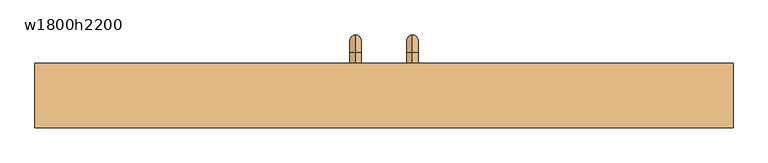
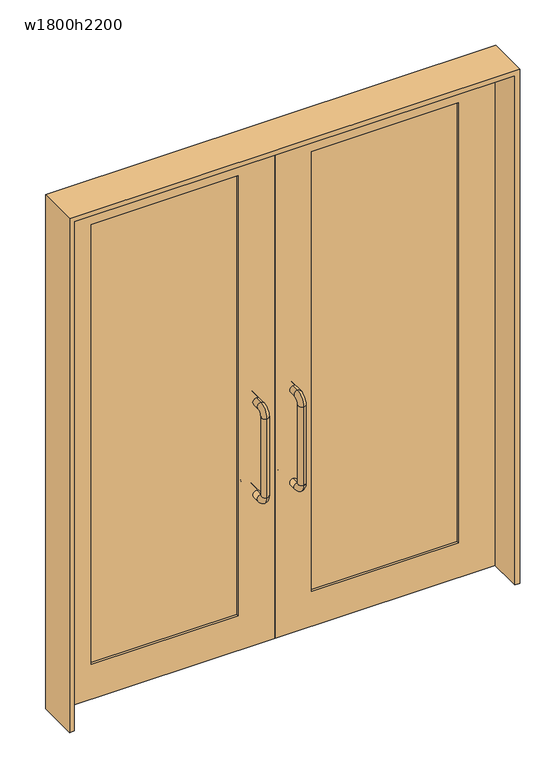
"""IFC4 building model written with IfcOpenShell, lengths in millimetres: door geometry, 両開き_ガラス四方框 : w1800h2200."""

from ifc_helpers import new_model, si_unit, point, frame, origin, place, context, project, spatial, polyline, circle_curve, ellipse_curve, trimmed, outline, extrude, source, transform, mapped, element, save
from ifc_brep_helpers import cylinder_surface, revolved_surface, advanced_brep


def w1800h2200_5ceaf187(model_context):
    return source(origin(), model_context, "Body", "SolidModel", [
        advanced_brep(
        [(75.0, 130.0, 680.0), (75.0, 115.0, 665.0), (75.0, 115.0, 635.0), (75.0, 160.0, 680.0), (75.0, 160.0, 1020.0), (75.0, 130.0, 1020.0), (75.0, 115.0, 1035.0), (75.0, 115.0, 1065.0), (75.0, 25.0, 1065.0), (75.0, 25.0, 1035.0), (75.0, 10.0, 1020.0), (75.0, -20.0, 1020.0), (75.0, -20.0, 680.0), (75.0, 10.0, 680.0), (75.0, 25.0, 665.0), (75.0, 25.0, 635.0)],
        [
            (0, 1, circle_curve(frame((75.0, 115.0, 680.0), z_axis=(-1.0, 0.0, 0.0), x_axis=(0.0, 0.0, -1.0)), 15.0)),
            (1, 2, circle_curve(frame((75.0, 115.0, 650.0), z_axis=(0.0, 1.0, 0.0), x_axis=(0.0, 0.0, 1.0)), 15.0)),
            (2, 3, circle_curve(frame((75.0, 115.0, 680.0), z_axis=(1.0, 0.0, 0.0), x_axis=(0.0, 0.0, -1.0)), 45.0)),
            (3, 0, circle_curve(frame((75.0, 145.0, 680.0), z_axis=(0.0, 0.0, -1.0), x_axis=(0.0, -1.0, 0.0)), 15.0)),
            (2, 1, circle_curve(frame((75.0, 115.0, 650.0), z_axis=(0.0, 1.0, 0.0), x_axis=(0.0, 0.0, 1.0)), 15.0)),
            (0, 3, circle_curve(frame((75.0, 145.0, 680.0), z_axis=(0.0, 0.0, -1.0), x_axis=(0.0, -1.0, 0.0)), 15.0)),
            (3, 4),
            (4, 5, circle_curve(frame((75.0, 145.0, 1020.0), z_axis=(0.0, 0.0, -1.0), x_axis=(0.0, -1.0, 0.0)), 15.0)),
            (5, 0),
            (5, 4, circle_curve(frame((75.0, 145.0, 1020.0), z_axis=(0.0, 0.0, -1.0), x_axis=(0.0, -1.0, 0.0)), 15.0)),
            (6, 5, circle_curve(frame((75.0, 115.0, 1020.0), z_axis=(-1.0, 0.0, 0.0), x_axis=(0.0, 1.0, 0.0)), 15.0)),
            (4, 7, circle_curve(frame((75.0, 115.0, 1020.0), z_axis=(1.0, 0.0, 0.0), x_axis=(0.0, 1.0, 0.0)), 45.0)),
            (7, 6, circle_curve(frame((75.0, 115.0, 1050.0), z_axis=(0.0, 1.0, 0.0), x_axis=(0.0, 0.0, -1.0)), 15.0)),
            (6, 7, circle_curve(frame((75.0, 115.0, 1050.0), z_axis=(0.0, 1.0, 0.0), x_axis=(0.0, 0.0, -1.0)), 15.0)),
            (7, 8),
            (8, 9, circle_curve(frame((75.0, 25.0, 1050.0), z_axis=(0.0, 1.0, 0.0), x_axis=(0.0, 0.0, -1.0)), 15.0)),
            (9, 6),
            (9, 8, circle_curve(frame((75.0, 25.0, 1050.0), z_axis=(0.0, 1.0, 0.0), x_axis=(0.0, 0.0, -1.0)), 15.0)),
            (10, 9, circle_curve(frame((75.0, 25.0, 1020.0), z_axis=(-1.0, 0.0, 0.0), x_axis=(0.0, 0.0, 1.0)), 15.0)),
            (8, 11, circle_curve(frame((75.0, 25.0, 1020.0), z_axis=(1.0, 0.0, 0.0), x_axis=(0.0, 0.0, 1.0)), 45.0)),
            (11, 10, circle_curve(frame((75.0, -5.0, 1020.0), z_axis=(0.0, 0.0, 1.0), x_axis=(0.0, 1.0, 0.0)), 15.0)),
            (10, 11, circle_curve(frame((75.0, -5.0, 1020.0), z_axis=(0.0, 0.0, 1.0), x_axis=(0.0, 1.0, 0.0)), 15.0)),
            (11, 12),
            (12, 13, circle_curve(frame((75.0, -5.0, 680.0), z_axis=(0.0, 0.0, 1.0), x_axis=(0.0, 1.0, 0.0)), 15.0)),
            (13, 10),
            (13, 12, circle_curve(frame((75.0, -5.0, 680.0), z_axis=(0.0, 0.0, 1.0), x_axis=(0.0, 1.0, 0.0)), 15.0)),
            (14, 13, circle_curve(frame((75.0, 25.0, 680.0), z_axis=(-1.0, 0.0, 0.0), x_axis=(0.0, -1.0, 0.0)), 15.0)),
            (12, 15, circle_curve(frame((75.0, 25.0, 680.0), z_axis=(1.0, 0.0, 0.0), x_axis=(0.0, -1.0, 0.0)), 45.0)),
            (15, 14, circle_curve(frame((75.0, 25.0, 650.0), z_axis=(0.0, -1.0, 0.0), x_axis=(0.0, 0.0, 1.0)), 15.0)),
            (14, 15, circle_curve(frame((75.0, 25.0, 650.0), z_axis=(0.0, -1.0, 0.0), x_axis=(0.0, 0.0, 1.0)), 15.0)),
            (15, 2),
            (1, 14),
        ],
        [
            revolved_surface(trimmed(ellipse_curve(frame((75.0, 115.0, 650.0), z_axis=(0.0, -1.0, 0.0), x_axis=(0.0, 0.0, 1.0)), 15.0, 15.0), [point((75.0, 115.0, 635.0))], [point((75.0, 115.0, 665.0))], True, "CARTESIAN"), (75.0, 115.0, 680.0), (1.0, 0.0, 0.0)),
            revolved_surface(trimmed(ellipse_curve(frame((75.0, 115.0, 650.0), z_axis=(0.0, -1.0, 0.0), x_axis=(0.0, 0.0, 1.0)), 15.0, 15.0), [point((75.0, 115.0, 665.0))], [point((75.0, 115.0, 635.0))], True, "CARTESIAN"), (75.0, 115.0, 680.0), (1.0, 0.0, 0.0)),
            cylinder_surface(frame((75.0, 145.0, 680.0), z_axis=(0.0, 0.0, -1.0), x_axis=(0.0, -1.0, 0.0)), 15.0),
            revolved_surface(trimmed(ellipse_curve(frame((75.0, 145.0, 1020.0), z_axis=(0.0, 0.0, -1.0), x_axis=(0.0, -1.0, 0.0)), 15.0, 15.0), [point((75.0, 160.0, 1020.0))], [point((75.0, 130.0, 1020.0))], True, "CARTESIAN"), (75.0, 115.0, 1020.0), (1.0, 0.0, 0.0)),
            revolved_surface(trimmed(ellipse_curve(frame((75.0, 145.0, 1020.0), z_axis=(0.0, 0.0, -1.0), x_axis=(0.0, -1.0, 0.0)), 15.0, 15.0), [point((75.0, 130.0, 1020.0))], [point((75.0, 160.0, 1020.0))], True, "CARTESIAN"), (75.0, 115.0, 1020.0), (1.0, 0.0, 0.0)),
            cylinder_surface(frame((75.0, 115.0, 1050.0), z_axis=(0.0, 1.0, 0.0), x_axis=(0.0, 0.0, -1.0)), 15.0),
            revolved_surface(trimmed(ellipse_curve(frame((75.0, 25.0, 1050.0), z_axis=(0.0, 1.0, 0.0), x_axis=(0.0, 0.0, -1.0)), 15.0, 15.0), [point((75.0, 25.0, 1065.0))], [point((75.0, 25.0, 1035.0))], True, "CARTESIAN"), (75.0, 25.0, 1020.0), (1.0, 0.0, 0.0)),
            revolved_surface(trimmed(ellipse_curve(frame((75.0, 25.0, 1050.0), z_axis=(0.0, 1.0, 0.0), x_axis=(0.0, 0.0, -1.0)), 15.0, 15.0), [point((75.0, 25.0, 1035.0))], [point((75.0, 25.0, 1065.0))], True, "CARTESIAN"), (75.0, 25.0, 1020.0), (1.0, 0.0, 0.0)),
            cylinder_surface(frame((75.0, -5.0, 1020.0), z_axis=(0.0, 0.0, 1.0), x_axis=(0.0, 1.0, 0.0)), 15.0),
            revolved_surface(trimmed(ellipse_curve(frame((75.0, -5.0, 680.0), z_axis=(0.0, 0.0, 1.0), x_axis=(0.0, 1.0, 0.0)), 15.0, 15.0), [point((75.0, -20.0, 680.0))], [point((75.0, 10.0, 680.0))], True, "CARTESIAN"), (75.0, 25.0, 680.0), (1.0, 0.0, 0.0)),
            revolved_surface(trimmed(ellipse_curve(frame((75.0, -5.0, 680.0), z_axis=(0.0, 0.0, 1.0), x_axis=(0.0, 1.0, 0.0)), 15.0, 15.0), [point((75.0, 10.0, 680.0))], [point((75.0, -20.0, 680.0))], True, "CARTESIAN"), (75.0, 25.0, 680.0), (1.0, 0.0, 0.0)),
            cylinder_surface(frame((75.0, 25.0, 650.0), z_axis=(0.0, -1.0, 0.0), x_axis=(0.0, 0.0, 1.0)), 15.0),
        ],
        [
            (0, [[1, 2, 3, 4]]),
            (1, [[-3, 5, -1, 6]]),
            (2, [[-4, 7, 8, 9]]),
            (2, [[-6, -9, 10, -7]]),
            (3, [[11, -8, 12, 13]]),
            (4, [[-12, -10, -11, 14]]),
            (5, [[-13, 15, 16, 17]]),
            (5, [[-14, -17, 18, -15]]),
            (6, [[19, -16, 20, 21]]),
            (7, [[-20, -18, -19, 22]]),
            (8, [[-21, 23, 24, 25]]),
            (8, [[-22, -25, 26, -23]]),
            (9, [[27, -24, 28, 29]]),
            (10, [[-28, -26, -27, 30]]),
            (11, [[-29, 31, -2, 32]]),
            (11, [[-30, -32, -5, -31]]),
        ],
    ),
        advanced_brep(
        [(-75.0, 130.0, 680.0), (-75.0, 115.0, 665.0), (-75.0, 115.0, 635.0), (-75.0, 160.0, 680.0), (-75.0, 160.0, 1020.0), (-75.0, 130.0, 1020.0), (-75.0, 115.0, 1035.0), (-75.0, 115.0, 1065.0), (-75.0, 25.0, 1065.0), (-75.0, 25.0, 1035.0), (-75.0, 10.0, 1020.0), (-75.0, -20.0, 1020.0), (-75.0, -20.0, 680.0), (-75.0, 10.0, 680.0), (-75.0, 25.0, 665.0), (-75.0, 25.0, 635.0)],
        [
            (0, 1, circle_curve(frame((-75.0, 115.0, 680.0), z_axis=(-1.0, 0.0, 0.0), x_axis=(0.0, 0.0, -1.0)), 15.0)),
            (1, 2, circle_curve(frame((-75.0, 115.0, 650.0), z_axis=(0.0, 1.0, 0.0), x_axis=(0.0, 0.0, 1.0)), 15.0)),
            (2, 3, circle_curve(frame((-75.0, 115.0, 680.0), z_axis=(1.0, 0.0, 0.0), x_axis=(0.0, 0.0, -1.0)), 45.0)),
            (3, 0, circle_curve(frame((-75.0, 145.0, 680.0), z_axis=(0.0, 0.0, -1.0), x_axis=(0.0, -1.0, 0.0)), 15.0)),
            (2, 1, circle_curve(frame((-75.0, 115.0, 650.0), z_axis=(0.0, 1.0, 0.0), x_axis=(0.0, 0.0, 1.0)), 15.0)),
            (0, 3, circle_curve(frame((-75.0, 145.0, 680.0), z_axis=(0.0, 0.0, -1.0), x_axis=(0.0, -1.0, 0.0)), 15.0)),
            (3, 4),
            (4, 5, circle_curve(frame((-75.0, 145.0, 1020.0), z_axis=(0.0, 0.0, -1.0), x_axis=(0.0, -1.0, 0.0)), 15.0)),
            (5, 0),
            (5, 4, circle_curve(frame((-75.0, 145.0, 1020.0), z_axis=(0.0, 0.0, -1.0), x_axis=(0.0, -1.0, 0.0)), 15.0)),
            (6, 5, circle_curve(frame((-75.0, 115.0, 1020.0), z_axis=(-1.0, 0.0, 0.0), x_axis=(0.0, 1.0, 0.0)), 15.0)),
            (4, 7, circle_curve(frame((-75.0, 115.0, 1020.0), z_axis=(1.0, 0.0, 0.0), x_axis=(0.0, 1.0, 0.0)), 45.0)),
            (7, 6, circle_curve(frame((-75.0, 115.0, 1050.0), z_axis=(0.0, 1.0, 0.0), x_axis=(0.0, 0.0, -1.0)), 15.0)),
            (6, 7, circle_curve(frame((-75.0, 115.0, 1050.0), z_axis=(0.0, 1.0, 0.0), x_axis=(0.0, 0.0, -1.0)), 15.0)),
            (7, 8),
            (8, 9, circle_curve(frame((-75.0, 25.0, 1050.0), z_axis=(0.0, 1.0, 0.0), x_axis=(0.0, 0.0, -1.0)), 15.0)),
            (9, 6),
            (9, 8, circle_curve(frame((-75.0, 25.0, 1050.0), z_axis=(0.0, 1.0, 0.0), x_axis=(0.0, 0.0, -1.0)), 15.0)),
            (10, 9, circle_curve(frame((-75.0, 25.0, 1020.0), z_axis=(-1.0, 0.0, 0.0), x_axis=(0.0, 0.0, 1.0)), 15.0)),
            (8, 11, circle_curve(frame((-75.0, 25.0, 1020.0), z_axis=(1.0, 0.0, 0.0), x_axis=(0.0, 0.0, 1.0)), 45.0)),
            (11, 10, circle_curve(frame((-75.0, -5.0, 1020.0), z_axis=(0.0, 0.0, 1.0), x_axis=(0.0, 1.0, 0.0)), 15.0)),
            (10, 11, circle_curve(frame((-75.0, -5.0, 1020.0), z_axis=(0.0, 0.0, 1.0), x_axis=(0.0, 1.0, 0.0)), 15.0)),
            (11, 12),
            (12, 13, circle_curve(frame((-75.0, -5.0, 680.0), z_axis=(0.0, 0.0, 1.0), x_axis=(0.0, 1.0, 0.0)), 15.0)),
            (13, 10),
            (13, 12, circle_curve(frame((-75.0, -5.0, 680.0), z_axis=(0.0, 0.0, 1.0), x_axis=(0.0, 1.0, 0.0)), 15.0)),
            (14, 13, circle_curve(frame((-75.0, 25.0, 680.0), z_axis=(-1.0, 0.0, 0.0), x_axis=(0.0, -1.0, 0.0)), 15.0)),
            (12, 15, circle_curve(frame((-75.0, 25.0, 680.0), z_axis=(1.0, 0.0, 0.0), x_axis=(0.0, -1.0, 0.0)), 45.0)),
            (15, 14, circle_curve(frame((-75.0, 25.0, 650.0), z_axis=(0.0, -1.0, 0.0), x_axis=(0.0, 0.0, 1.0)), 15.0)),
            (14, 15, circle_curve(frame((-75.0, 25.0, 650.0), z_axis=(0.0, -1.0, 0.0), x_axis=(0.0, 0.0, 1.0)), 15.0)),
            (15, 2),
            (1, 14),
        ],
        [
            revolved_surface(trimmed(ellipse_curve(frame((-75.0, 115.0, 650.0), z_axis=(0.0, -1.0, 0.0), x_axis=(0.0, 0.0, 1.0)), 15.0, 15.0), [point((-75.0, 115.0, 635.0))], [point((-75.0, 115.0, 665.0))], True, "CARTESIAN"), (-75.0, 115.0, 680.0), (1.0, 0.0, 0.0)),
            revolved_surface(trimmed(ellipse_curve(frame((-75.0, 115.0, 650.0), z_axis=(0.0, -1.0, 0.0), x_axis=(0.0, 0.0, 1.0)), 15.0, 15.0), [point((-75.0, 115.0, 665.0))], [point((-75.0, 115.0, 635.0))], True, "CARTESIAN"), (-75.0, 115.0, 680.0), (1.0, 0.0, 0.0)),
            cylinder_surface(frame((-75.0, 145.0, 680.0), z_axis=(0.0, 0.0, -1.0), x_axis=(0.0, -1.0, 0.0)), 15.0),
            revolved_surface(trimmed(ellipse_curve(frame((-75.0, 145.0, 1020.0), z_axis=(0.0, 0.0, -1.0), x_axis=(0.0, -1.0, 0.0)), 15.0, 15.0), [point((-75.0, 160.0, 1020.0))], [point((-75.0, 130.0, 1020.0))], True, "CARTESIAN"), (-75.0, 115.0, 1020.0), (1.0, 0.0, 0.0)),
            revolved_surface(trimmed(ellipse_curve(frame((-75.0, 145.0, 1020.0), z_axis=(0.0, 0.0, -1.0), x_axis=(0.0, -1.0, 0.0)), 15.0, 15.0), [point((-75.0, 130.0, 1020.0))], [point((-75.0, 160.0, 1020.0))], True, "CARTESIAN"), (-75.0, 115.0, 1020.0), (1.0, 0.0, 0.0)),
            cylinder_surface(frame((-75.0, 115.0, 1050.0), z_axis=(0.0, 1.0, 0.0), x_axis=(0.0, 0.0, -1.0)), 15.0),
            revolved_surface(trimmed(ellipse_curve(frame((-75.0, 25.0, 1050.0), z_axis=(0.0, 1.0, 0.0), x_axis=(0.0, 0.0, -1.0)), 15.0, 15.0), [point((-75.0, 25.0, 1065.0))], [point((-75.0, 25.0, 1035.0))], True, "CARTESIAN"), (-75.0, 25.0, 1020.0), (1.0, 0.0, 0.0)),
            revolved_surface(trimmed(ellipse_curve(frame((-75.0, 25.0, 1050.0), z_axis=(0.0, 1.0, 0.0), x_axis=(0.0, 0.0, -1.0)), 15.0, 15.0), [point((-75.0, 25.0, 1035.0))], [point((-75.0, 25.0, 1065.0))], True, "CARTESIAN"), (-75.0, 25.0, 1020.0), (1.0, 0.0, 0.0)),
            cylinder_surface(frame((-75.0, -5.0, 1020.0), z_axis=(0.0, 0.0, 1.0), x_axis=(0.0, 1.0, 0.0)), 15.0),
            revolved_surface(trimmed(ellipse_curve(frame((-75.0, -5.0, 680.0), z_axis=(0.0, 0.0, 1.0), x_axis=(0.0, 1.0, 0.0)), 15.0, 15.0), [point((-75.0, -20.0, 680.0))], [point((-75.0, 10.0, 680.0))], True, "CARTESIAN"), (-75.0, 25.0, 680.0), (1.0, 0.0, 0.0)),
            revolved_surface(trimmed(ellipse_curve(frame((-75.0, -5.0, 680.0), z_axis=(0.0, 0.0, 1.0), x_axis=(0.0, 1.0, 0.0)), 15.0, 15.0), [point((-75.0, 10.0, 680.0))], [point((-75.0, -20.0, 680.0))], True, "CARTESIAN"), (-75.0, 25.0, 680.0), (1.0, 0.0, 0.0)),
            cylinder_surface(frame((-75.0, 25.0, 650.0), z_axis=(0.0, -1.0, 0.0), x_axis=(0.0, 0.0, 1.0)), 15.0),
        ],
        [
            (0, [[1, 2, 3, 4]]),
            (1, [[-3, 5, -1, 6]]),
            (2, [[-4, 7, 8, 9]]),
            (2, [[-6, -9, 10, -7]]),
            (3, [[11, -8, 12, 13]]),
            (4, [[-12, -10, -11, 14]]),
            (5, [[-13, 15, 16, 17]]),
            (5, [[-14, -17, 18, -15]]),
            (6, [[19, -16, 20, 21]]),
            (7, [[-20, -18, -19, 22]]),
            (8, [[-21, 23, 24, 25]]),
            (8, [[-22, -25, 26, -23]]),
            (9, [[27, -24, 28, 29]]),
            (10, [[-28, -26, -27, 30]]),
            (11, [[-29, 31, -2, 32]]),
            (11, [[-30, -32, -5, -31]]),
        ],
    ),
        extrude(outline(polyline([(-150.0, 65.0), (-750.0, 65.0), (-750.0, 67.5), (-150.0, 67.5), (-150.0, 65.0)])), frame((0.0, 0.0, 150.0), z_axis=(0.0, 0.0, 1.0), x_axis=(1.0, 0.0, 0.0)), (0.0, 0.0, 1.0), 1900.0),
        extrude(outline(polyline([(750.0, 65.0), (150.0, 65.0), (150.0, 67.5), (750.0, 67.5), (750.0, 65.0)])), frame((0.0, 0.0, 150.0), z_axis=(0.0, 0.0, 1.0), x_axis=(1.0, 0.0, 0.0)), (0.0, 0.0, 1.0), 1900.0),
        extrude(outline(polyline([(2200.0, 0.0), (2200.0, -900.0), (0.0, -900.0), (0.0, 0.0), (2200.0, 0.0)]), holes=[polyline([(2050.0, -150.0), (150.0, -150.0), (150.0, -750.0), (2050.0, -750.0), (2050.0, -150.0)])]), frame((0.0, 55.0, 0.0), z_axis=(0.0, 1.0, 0.0), x_axis=(0.0, 0.0, 1.0)), (0.0, 0.0, 1.0), 30.0),
        extrude(outline(polyline([(2220.0, -920.0), (0.0, -920.0), (0.0, -900.0), (2200.0, -900.0), (2200.0, 900.0), (0.0, 900.0), (0.0, 920.0), (2220.0, 920.0), (2220.0, -920.0)])), frame((0.0, -85.0, 0.0), z_axis=(0.0, 1.0, 0.0), x_axis=(0.0, 0.0, 1.0)), (0.0, 0.0, 1.0), 170.0),
        extrude(outline(polyline([(2200.0, 900.0), (2200.0, 0.0), (0.0, 0.0), (0.0, 900.0), (2200.0, 900.0)]), holes=[polyline([(2050.0, 750.0), (150.0, 750.0), (150.0, 150.0), (2050.0, 150.0), (2050.0, 750.0)])]), frame((0.0, 55.0, 0.0), z_axis=(0.0, 1.0, 0.0), x_axis=(0.0, 0.0, 1.0)), (0.0, 0.0, 1.0), 30.0),
    ])


if __name__ == "__main__":
    model = new_model("IFC4")
    model_context = context("Model", 3, world=origin())
    ifc_project = project(units=[si_unit("LENGTHUNIT", "METRE", prefix="MILLI")], contexts=[model_context])
    site = spatial("IfcSite", under=ifc_project)
    building = spatial("IfcBuilding", under=site)
    placement = place(None, origin())
    w1800h2200_shape = w1800h2200_5ceaf187(model_context)
    element("IfcDoor", 1, ObjectType="両開き_ガラス四方框 : w1800h2200", at=placement, inside=building, context=model_context, shape_type="MappedRepresentation", body=[
        mapped(w1800h2200_shape, transform((0.0, 0.0, 0.0), x_axis=(1.0, 0.0, 0.0), y_axis=(0.0, 1.0, 0.0), z_axis=(0.0, 0.0, 1.0))),
    ])
    save(model, "model.ifc")
